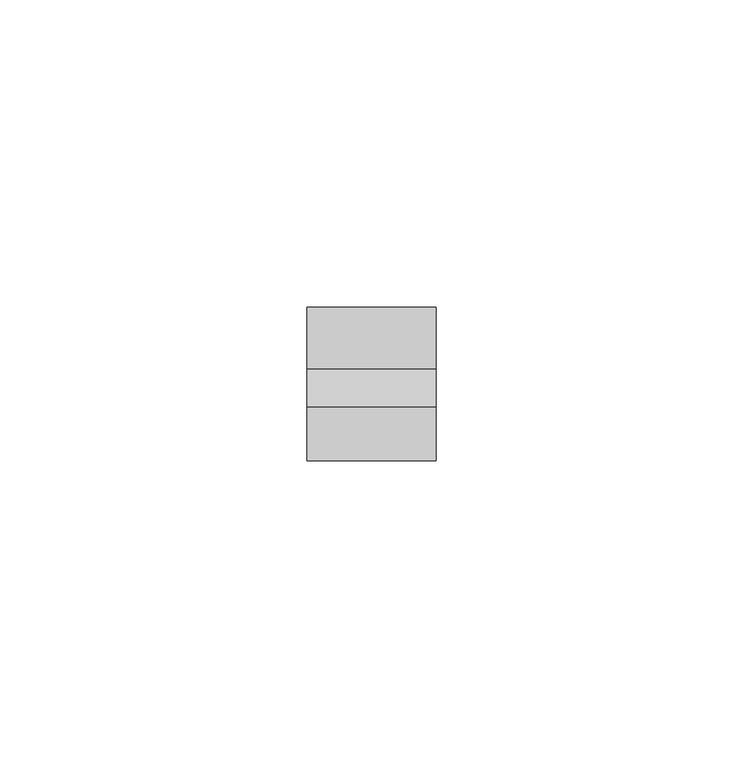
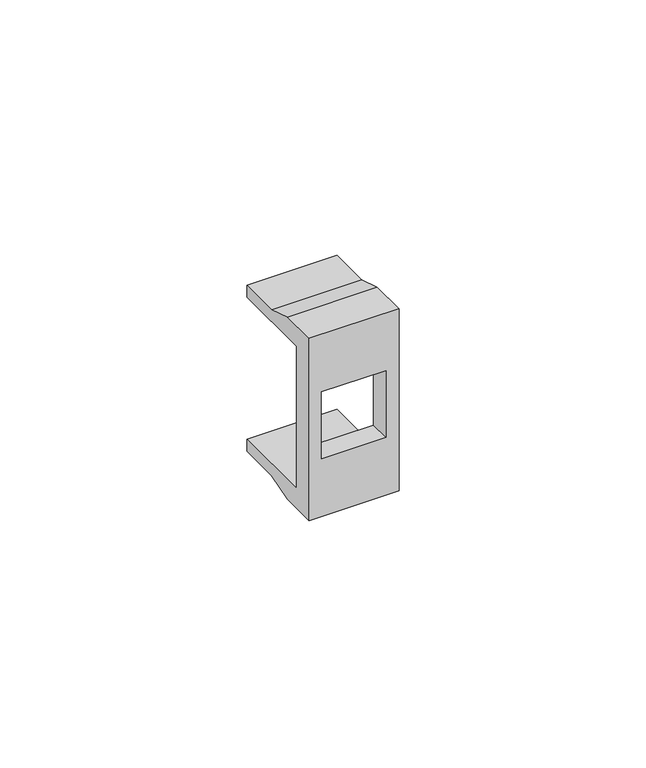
"""IFC4 building model written with IfcOpenShell, lengths in millimetres: proxy geometry, КНС_АдаптерыДляИнформационныхРазъемов_DKC : Keystone."""

from ifc_helpers import new_model, si_unit, origin, place, context, project, spatial, faceted_brep, source, transform, mapped, element, save


def electrical_fixtures_907d9c87(model_context):
    return source(origin(), model_context, "Body", "Brep", [
        faceted_brep([(10.5, -25.0, 22.5), (-10.5, -25.0, 22.5), (-10.5, -25.0, -22.5), (10.5, -25.0, -22.5), (7.5, -25.0, 8.25), (7.5, -25.0, -8.25), (-7.5, -25.0, -8.25), (-7.5, -25.0, 8.25), (10.5, 0.0, 20.5), (10.5, 0.0, 17.5), (-10.5, 0.0, 17.5), (-10.5, 0.0, 20.5), (10.5, 0.0, -17.5), (10.5, 0.0, -20.5), (-10.5, 0.0, -20.5), (-10.5, 0.0, -17.5), (10.5, -16.2913439, 22.5), (-10.5, -16.2913439, 22.5), (-10.5, -10.0, 20.5), (-10.5, -20.0, 17.5), (-10.5, -20.0, -17.5), (-10.5, -10.0, -20.5), (-10.5, -16.2913439, -22.5), (10.5, -16.2913439, -22.5), (10.5, -10.0, -20.5), (10.5, -20.0, -17.5), (10.5, -20.0, 17.5), (10.5, -10.0, 20.5), (7.5, -20.0, 8.25), (7.5, -20.0, -8.25), (-7.5, -20.0, -8.25), (-7.5, -20.0, 8.25)], [[[0, 1, 2, 3], [4, 5, 6, 7]], [[8, 9, 10, 11]], [[12, 13, 14, 15]], [[1, 0, 16, 17]], [[2, 1, 17, 18, 11, 10, 19, 20, 15, 14, 21, 22]], [[3, 2, 22, 23]], [[0, 3, 23, 24, 13, 12, 25, 26, 9, 8, 27, 16]], [[5, 4, 28, 29]], [[6, 5, 29, 30]], [[7, 6, 30, 31]], [[4, 7, 31, 28]], [[20, 25, 12, 15]], [[26, 19, 10, 9]], [[25, 20, 19, 26], [29, 28, 31, 30]], [[18, 27, 8, 11]], [[27, 18, 17, 16]], [[24, 21, 14, 13]], [[21, 24, 23, 22]]]),
    ])


if __name__ == "__main__":
    model = new_model("IFC4")
    model_context = context("Model", 3, world=origin())
    ifc_project = project(units=[si_unit("LENGTHUNIT", "METRE", prefix="MILLI")], contexts=[model_context])
    site = spatial("IfcSite", under=ifc_project)
    building = spatial("IfcBuilding", under=site)
    placement = place(None, origin())
    electrical_fixtures_shape = electrical_fixtures_907d9c87(model_context)
    element("IfcBuildingElementProxy", 1, Name="КНС_АдаптерыДляИнформационныхРазъемов_DKC : Keystone", ObjectType="КНС_АдаптерыДляИнформационныхРазъемов_DKC : Keystone", at=placement, inside=building, context=model_context, shape_type="MappedRepresentation", body=[
        mapped(electrical_fixtures_shape, transform((0.0, 0.0, 0.0), x_axis=(1.0, 0.0, 0.0), y_axis=(0.0, 1.0, 0.0), z_axis=(0.0, 0.0, 1.0))),
    ])
    save(model, "model.ifc")
